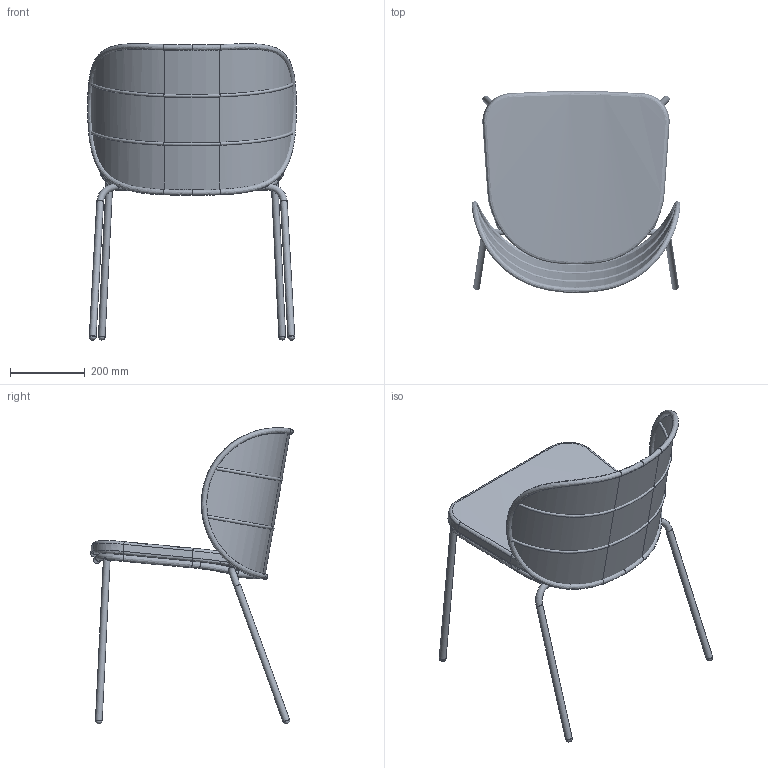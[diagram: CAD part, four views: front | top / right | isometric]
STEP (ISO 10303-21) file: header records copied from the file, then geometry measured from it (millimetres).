
FILE_DESCRIPTION(/* description */ (''),/* implementation_level */ '2;1');
FILE_NAME(/* name */ 'U:/01 COLLECTIE/02 OUTDOOR/01 Producten/Kodo collection/Dining Chair/3D/VincentSheppard_Kodo_DC.step',/* time_stamp */ '2019-09-24T08:21:39+02:00',/* author */ (''),/* organization */ (''),/* preprocessor_version */ 'ST-DEVELOPER v18',/* originating_system */ 'Autodesk Translation Framework v8.6.0.1094',/* authorisation */ '');
FILE_SCHEMA (('AUTOMOTIVE_DESIGN { 1 0 10303 214 3 1 1 }'));
Products named in the file (1): VincentSheppard_Kodo_DC
Bounding box: 557.78 x 540.63 x 791.94 mm (x, y, z)
Volume: 7798154.6 mm3; surface area: 1595129.3 mm2
Topology: 23 solids, 25 shells, 991 faces, 2822 edges, 1870 vertices
Faces by surface type: cylinder 815, bspline 110, plane 44, torus 18, sphere 4
Full cylindrical faces by diameter (mm): 3.006 x9, 3.047 x9, 3.088 x4, 3.129 x4, 3.168 x1, 3.208 x5, 3.247 x4, 3.285 x8, 3.323 x6, 3.361 x9, 3.398 x9, 3.435 x4, 3.471 x9, 3.507 x9, 3.542 x6, 3.578 x8, 3.613 x4, 3.647 x2, 3.715 x5, 3.749 x1, 3.782 x5, 3.815 x1, 3.848 x4, 3.881 x6, 3.913 x4, 3.945 x4, 3.976 x2, 4.008 x7, 4.039 x3, 4.07 x6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
Entity records: 96639 total; most frequent: CARTESIAN_POINT 71189, ORIENTED_EDGE 5630, DIRECTION 3124, EDGE_CURVE 2818, EDGE_LOOP 2549, VERTEX_POINT 1870, B_SPLINE_CURVE_WITH_KNOTS 1712, FACE_BOUND 1558
